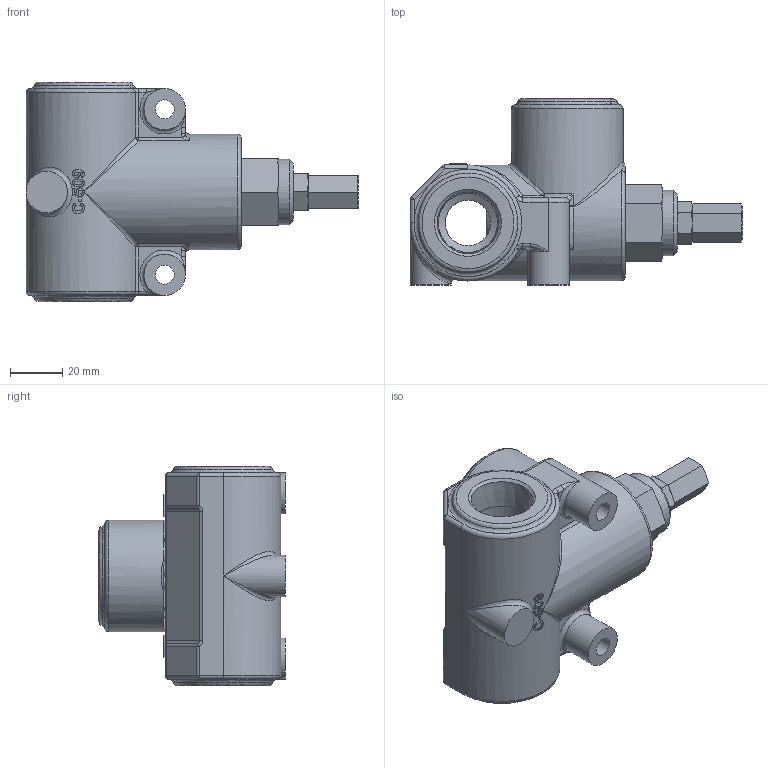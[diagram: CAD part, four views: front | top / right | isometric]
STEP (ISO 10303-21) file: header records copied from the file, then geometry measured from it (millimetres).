
FILE_DESCRIPTION((''),'2;1');
FILE_NAME('C:\Vault\Workspace\z_ShellModels\Misc_RD_RV\RV-2H_Shell.stp','2012-03-19T12:13:34',('PetersW'),(''),'Autodesk Inventor 2012','Autodesk Inventor 2012','');
FILE_SCHEMA(('AUTOMOTIVE_DESIGN { 1 0 10303 214 1 1 1 1 }'));
Length unit declared in the file: inch
Products named in the file (1): RV-2H_ShellConst
Bounding box: 127.36 x 71.4 x 84.1 mm (x, y, z)
Volume: 220476.9 mm3; surface area: 39955 mm2
Topology: 1 solids, 3 shells, 461 faces, 1136 edges, 699 vertices
Faces by surface type: plane 158, bspline 134, cylinder 76, cone 52, torus 21, sphere 20
Full cylindrical faces by diameter (mm): 7.264 x2, 15.875 x3, 17.374 x1, 17.475 x1, 19.685 x1, 20.472 x1, 22.631 x3, 25.146 x1, 34.138 x1, 42.863 x1
Entity records: 29053 total; most frequent: CARTESIAN_POINT 18938, ORIENTED_EDGE 2148, DIRECTION 1665, EDGE_CURVE 1074, VERTEX_POINT 682, AXIS2_PLACEMENT_3D 594, EDGE_LOOP 534, VECTOR 477
